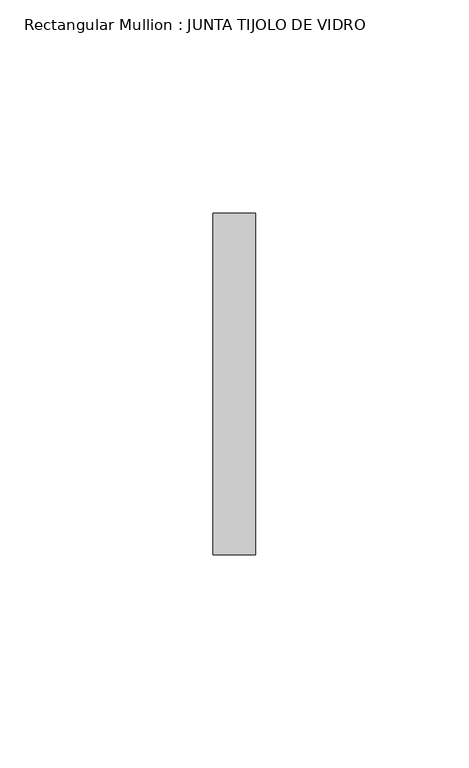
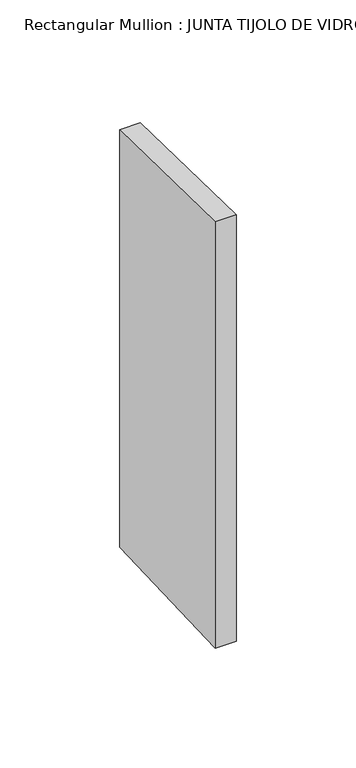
"""IFC4 building model written with IfcOpenShell, lengths in millimetres: member geometry, Rectangular Mullion : JUNTA TIJOLO DE VIDRO."""

from ifc_helpers import new_model, si_unit, frame, origin, place, context, project, spatial, polyline, outline, extrude, source, transform, mapped, element, save


def rectangular_mullion_junta_tijolo_de_vidro_7cde30b7(model_context):
    return source(origin(), model_context, "Body", "SweptSolid", [
        extrude(outline(polyline([(-40.0, 0.7574551), (40.0, -0.7574551), (40.0, -213.7738047), (-40.0, -216.8399565), (-40.0, 0.7574551)])), frame((-10.0, 0.0, 0.0), z_axis=(1.0, 0.0, 0.0), x_axis=(0.0, 1.0, 0.0)), (0.0, 0.0, 1.0), 10.0),
    ])


if __name__ == "__main__":
    model = new_model("IFC4")
    model_context = context("Model", 3, world=origin())
    ifc_project = project(units=[si_unit("LENGTHUNIT", "METRE", prefix="MILLI")], contexts=[model_context])
    site = spatial("IfcSite", under=ifc_project)
    building = spatial("IfcBuilding", under=site)
    placement = place(None, origin())
    rectangular_mullion_junta_tijolo_de_vidro_shape = rectangular_mullion_junta_tijolo_de_vidro_7cde30b7(model_context)
    element("IfcMember", 1, ObjectType="Rectangular Mullion : JUNTA TIJOLO DE VIDRO", at=placement, inside=building, context=model_context, shape_type="MappedRepresentation", body=[
        mapped(rectangular_mullion_junta_tijolo_de_vidro_shape, transform((0.0, 0.0, 0.0), x_axis=(1.0, 0.0, 0.0), y_axis=(0.0, 1.0, 0.0), z_axis=(0.0, 0.0, 1.0))),
    ])
    save(model, "model.ifc")
